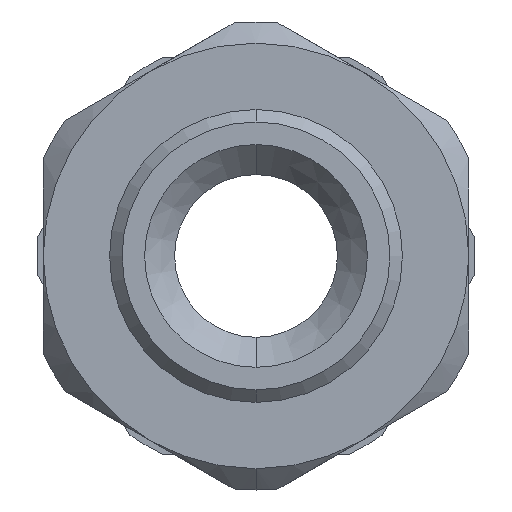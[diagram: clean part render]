
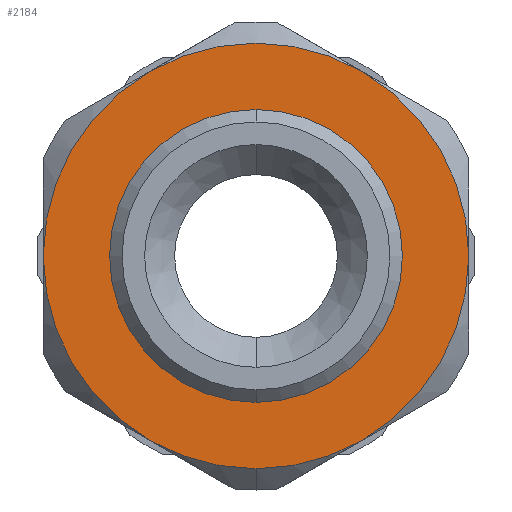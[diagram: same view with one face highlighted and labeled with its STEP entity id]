
A CAD part, front view. The second image highlights one B-rep face of the part: STEP entity #2184.
In plain terms, the highlighted planar face has unit normal (0, -1, 0).
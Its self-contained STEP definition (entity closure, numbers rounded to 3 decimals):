
#28 = CIRCLE ( 'NONE', #355, 8.5 ) ;
#29 = CIRCLE ( 'NONE', #335, 8.5 ) ;
#36 = CIRCLE ( 'NONE', #474, 8.5 ) ;
#44 = CIRCLE ( 'NONE', #293, 5.85 ) ;
#53 = CIRCLE ( 'NONE', #570, 8.5 ) ;
#56 = CIRCLE ( 'NONE', #578, 8.5 ) ;
#60 = CIRCLE ( 'NONE', #441, 8.5 ) ;
#99 = FACE_BOUND ( 'NONE', #1412, .T. ) ;
#110 = AXIS2_PLACEMENT_3D ( 'NONE', #1587, #1588, #1589 ) ;
#230 = FACE_OUTER_BOUND ( 'NONE', #1411, .T. ) ;
#293 = AXIS2_PLACEMENT_3D ( 'NONE', #486, #492, #493 ) ;
#295 = AXIS2_PLACEMENT_3D ( 'NONE', #1792, #1805, #1806 ) ;
#335 = AXIS2_PLACEMENT_3D ( 'NONE', #365, #367, #368 ) ;
#355 = AXIS2_PLACEMENT_3D ( 'NONE', #2084, #2094, #2095 ) ;
#365 = CARTESIAN_POINT ( 'NONE',  ( 0., 1., 0. ) ) ;
#367 = DIRECTION ( 'NONE',  ( 0., -1., 0. ) ) ;
#368 = DIRECTION ( 'NONE',  ( 0., 0., -1. ) ) ;
#441 = AXIS2_PLACEMENT_3D ( 'NONE', #494, #496, #497 ) ;
#457 = CARTESIAN_POINT ( 'NONE',  ( 0., 1., 0. ) ) ;
#471 = DIRECTION ( 'NONE',  ( 0., -1., 0. ) ) ;
#472 = DIRECTION ( 'NONE',  ( 0., 0., -1. ) ) ;
#473 = CARTESIAN_POINT ( 'NONE',  ( 0., 1., 0. ) ) ;
#474 = AXIS2_PLACEMENT_3D ( 'NONE', #457, #471, #472 ) ;
#475 = DIRECTION ( 'NONE',  ( 0., -1., 0. ) ) ;
#477 = DIRECTION ( 'NONE',  ( 0., 0., -1. ) ) ;
#486 = CARTESIAN_POINT ( 'NONE',  ( 0., 1., 0. ) ) ;
#492 = DIRECTION ( 'NONE',  ( 0., -1., 0. ) ) ;
#493 = DIRECTION ( 'NONE',  ( 0., 0., -1. ) ) ;
#494 = CARTESIAN_POINT ( 'NONE',  ( 0., 1., 0. ) ) ;
#496 = DIRECTION ( 'NONE',  ( 0., -1., 0. ) ) ;
#497 = DIRECTION ( 'NONE',  ( 0., 0., -1. ) ) ;
#570 = AXIS2_PLACEMENT_3D ( 'NONE', #473, #475, #477 ) ;
#578 = AXIS2_PLACEMENT_3D ( 'NONE', #2096, #2097, #2098 ) ;
#586 = AXIS2_PLACEMENT_3D ( 'NONE', #1789, #1790, #1791 ) ;
#704 = VERTEX_POINT ( 'NONE', #901 ) ;
#724 = VERTEX_POINT ( 'NONE', #921 ) ;
#726 = VERTEX_POINT ( 'NONE', #923 ) ;
#749 = VERTEX_POINT ( 'NONE', #946 ) ;
#761 = VERTEX_POINT ( 'NONE', #947 ) ;
#766 = VERTEX_POINT ( 'NONE', #952 ) ;
#790 = VERTEX_POINT ( 'NONE', #976 ) ;
#798 = VERTEX_POINT ( 'NONE', #984 ) ;
#814 = VERTEX_POINT ( 'NONE', #1000 ) ;
#901 = CARTESIAN_POINT ( 'NONE',  ( 0., 1., 5.85 ) ) ;
#921 = CARTESIAN_POINT ( 'NONE',  ( 0., 1., -5.85 ) ) ;
#923 = CARTESIAN_POINT ( 'NONE',  ( 0., 1., -8.5 ) ) ;
#946 = CARTESIAN_POINT ( 'NONE',  ( 4.25, 1., -7.361 ) ) ;
#947 = CARTESIAN_POINT ( 'NONE',  ( -4.25, 1., -7.361 ) ) ;
#952 = CARTESIAN_POINT ( 'NONE',  ( 8.5, 1., 0. ) ) ;
#976 = CARTESIAN_POINT ( 'NONE',  ( 4.25, 1., 7.361 ) ) ;
#984 = CARTESIAN_POINT ( 'NONE',  ( -8.5, 1., 0. ) ) ;
#1000 = CARTESIAN_POINT ( 'NONE',  ( -4.25, 1., 7.361 ) ) ;
#1211 = ORIENTED_EDGE ( 'NONE', *, *, #2260, .F. ) ;
#1212 = ORIENTED_EDGE ( 'NONE', *, *, #2436, .F. ) ;
#1213 = ORIENTED_EDGE ( 'NONE', *, *, #2432, .T. ) ;
#1214 = ORIENTED_EDGE ( 'NONE', *, *, #2433, .T. ) ;
#1215 = ORIENTED_EDGE ( 'NONE', *, *, #2437, .T. ) ;
#1216 = ORIENTED_EDGE ( 'NONE', *, *, #2400, .T. ) ;
#1217 = ORIENTED_EDGE ( 'NONE', *, *, #2348, .T. ) ;
#1218 = ORIENTED_EDGE ( 'NONE', *, *, #2254, .T. ) ;
#1219 = ORIENTED_EDGE ( 'NONE', *, *, #2349, .T. ) ;
#1411 = EDGE_LOOP ( 'NONE', ( #1213, #1215, #1214, #1216, #1217, #1218, #1219 ) ) ;
#1412 = EDGE_LOOP ( 'NONE', ( #1211, #1212 ) ) ;
#1586 = PLANE ( 'NONE',  #110 ) ;
#1587 = CARTESIAN_POINT ( 'NONE',  ( -9.35, 1., 0. ) ) ;
#1588 = DIRECTION ( 'NONE',  ( 0., 1., 0. ) ) ;
#1589 = DIRECTION ( 'NONE',  ( 0., 0., 1. ) ) ;
#1789 = CARTESIAN_POINT ( 'NONE',  ( 0., 1., 0. ) ) ;
#1790 = DIRECTION ( 'NONE',  ( 0., -1., 0. ) ) ;
#1791 = DIRECTION ( 'NONE',  ( 0., 0., -1. ) ) ;
#1792 = CARTESIAN_POINT ( 'NONE',  ( 0., 1., 0. ) ) ;
#1805 = DIRECTION ( 'NONE',  ( 0., -1., 0. ) ) ;
#1806 = DIRECTION ( 'NONE',  ( 0., 0., -1. ) ) ;
#2084 = CARTESIAN_POINT ( 'NONE',  ( 0., 1., 0. ) ) ;
#2094 = DIRECTION ( 'NONE',  ( 0., -1., 0. ) ) ;
#2095 = DIRECTION ( 'NONE',  ( 0., 0., -1. ) ) ;
#2096 = CARTESIAN_POINT ( 'NONE',  ( 0., 1., 0. ) ) ;
#2097 = DIRECTION ( 'NONE',  ( 0., -1., 0. ) ) ;
#2098 = DIRECTION ( 'NONE',  ( 0., 0., -1. ) ) ;
#2184 = ADVANCED_FACE ( 'NONE', ( #99, #230 ), #1586, .F. ) ;
#2254 = EDGE_CURVE ( 'NONE', #726, #749, #2364, .T. ) ;
#2260 = EDGE_CURVE ( 'NONE', #724, #704, #2365, .T. ) ;
#2348 = EDGE_CURVE ( 'NONE', #761, #726, #28, .T. ) ;
#2349 = EDGE_CURVE ( 'NONE', #749, #766, #56, .T. ) ;
#2364 = CIRCLE ( 'NONE', #586, 8.5 ) ;
#2365 = CIRCLE ( 'NONE', #295, 5.85 ) ;
#2400 = EDGE_CURVE ( 'NONE', #798, #761, #29, .T. ) ;
#2432 = EDGE_CURVE ( 'NONE', #766, #790, #36, .T. ) ;
#2433 = EDGE_CURVE ( 'NONE', #814, #798, #53, .T. ) ;
#2436 = EDGE_CURVE ( 'NONE', #704, #724, #44, .T. ) ;
#2437 = EDGE_CURVE ( 'NONE', #790, #814, #60, .T. ) ;
